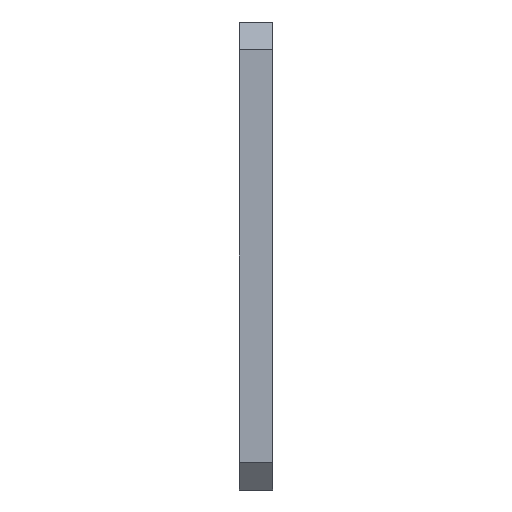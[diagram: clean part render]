
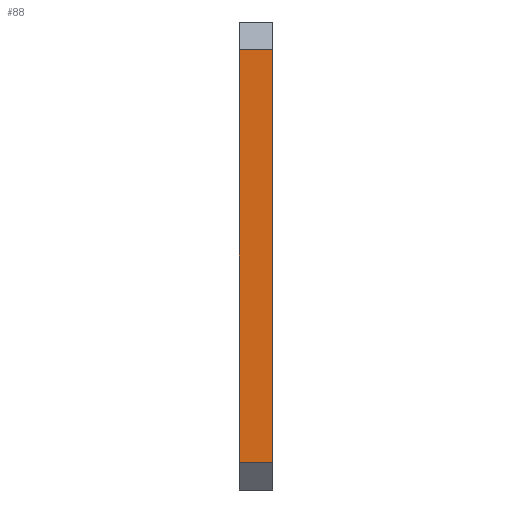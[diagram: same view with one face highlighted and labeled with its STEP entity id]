
A CAD part, left-side view. The second image highlights one B-rep face of the part: STEP entity #88.
In plain terms, the highlighted planar face has unit normal (-1, 0, 0).
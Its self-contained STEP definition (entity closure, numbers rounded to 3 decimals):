
#32 = VERTEX_POINT('',#33);
#33 = CARTESIAN_POINT('',(0.,-3.,37.));
#39 = EDGE_CURVE('',#40,#32,#42,.T.);
#40 = VERTEX_POINT('',#41);
#41 = CARTESIAN_POINT('',(0.,0.,37.));
#42 = LINE('',#43,#44);
#43 = CARTESIAN_POINT('',(0.,0.,37.));
#44 = VECTOR('',#45,1.);
#45 = DIRECTION('',(0.,-1.,0.));
#88 = ADVANCED_FACE('',(#89),#114,.F.);
#89 = FACE_BOUND('',#90,.F.);
#90 = EDGE_LOOP('',(#91,#92,#100,#108));
#91 = ORIENTED_EDGE('',*,*,#39,.T.);
#92 = ORIENTED_EDGE('',*,*,#93,.T.);
#93 = EDGE_CURVE('',#32,#94,#96,.T.);
#94 = VERTEX_POINT('',#95);
#95 = CARTESIAN_POINT('',(0.,-3.,0.));
#96 = LINE('',#97,#98);
#97 = CARTESIAN_POINT('',(0.,-3.,37.));
#98 = VECTOR('',#99,1.);
#99 = DIRECTION('',(0.,0.,-1.));
#100 = ORIENTED_EDGE('',*,*,#101,.F.);
#101 = EDGE_CURVE('',#102,#94,#104,.T.);
#102 = VERTEX_POINT('',#103);
#103 = CARTESIAN_POINT('',(0.,0.,0.));
#104 = LINE('',#105,#106);
#105 = CARTESIAN_POINT('',(0.,0.,0.));
#106 = VECTOR('',#107,1.);
#107 = DIRECTION('',(0.,-1.,0.));
#108 = ORIENTED_EDGE('',*,*,#109,.F.);
#109 = EDGE_CURVE('',#40,#102,#110,.T.);
#110 = LINE('',#111,#112);
#111 = CARTESIAN_POINT('',(0.,0.,37.));
#112 = VECTOR('',#113,1.);
#113 = DIRECTION('',(0.,0.,-1.));
#114 = PLANE('',#115);
#115 = AXIS2_PLACEMENT_3D('',#116,#117,#118);
#116 = CARTESIAN_POINT('',(0.,0.,37.));
#117 = DIRECTION('',(1.,0.,0.));
#118 = DIRECTION('',(0.,0.,-1.));
